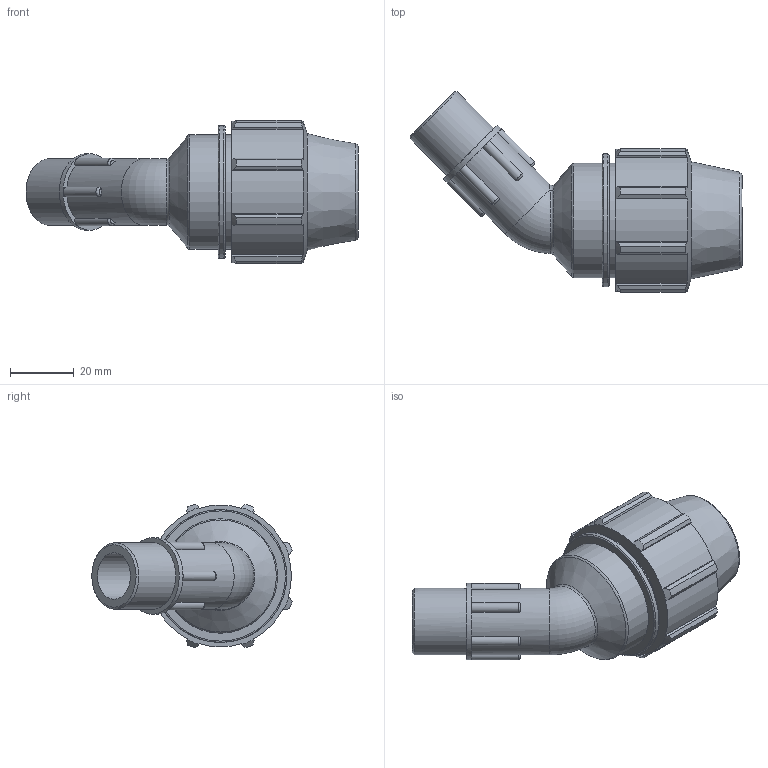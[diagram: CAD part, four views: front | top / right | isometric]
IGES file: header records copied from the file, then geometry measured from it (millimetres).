
Global section: file name: 074500020005_184500020005_0745060200050A.ipt; native system: Autodesk Inventor 2015; preprocessor: unknown; author: KIM; date: 20170606.172403; units: millimetre
Bounding box: 104.43 x 63.02 x 45.16 mm (x, y, z)
Volume: 61545.5 mm3; surface area: 20130.4 mm2
Topology: 1 solids, 1 shells, 111 faces, 307 edges, 204 vertices
Faces by surface type: plane 52, cylinder 28, revolution 17, cone 12, bspline 2
Full cylindrical faces by diameter (mm): 20.955 x2, 24.098 x1, 36 x2, 41.76 x1
